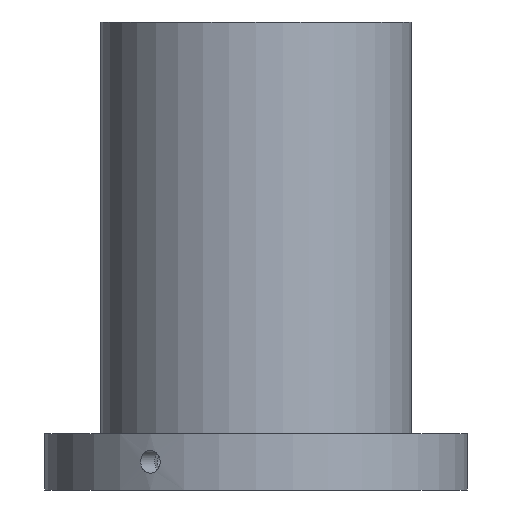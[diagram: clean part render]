
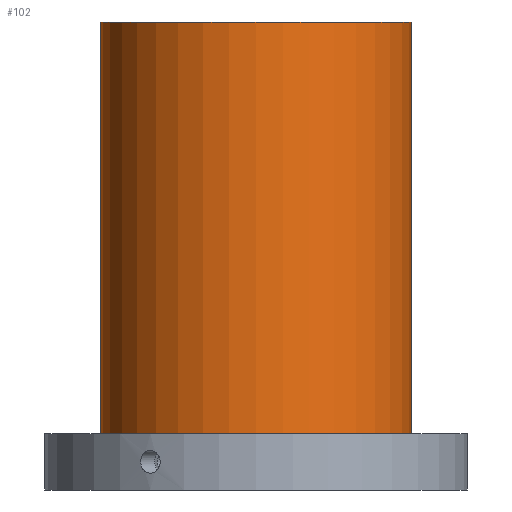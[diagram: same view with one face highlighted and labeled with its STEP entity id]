
A CAD part, front view. The second image highlights one B-rep face of the part: STEP entity #102.
In plain terms, the highlighted cylindrical face has radius 55 mm (diameter 110 mm), a full revolution.
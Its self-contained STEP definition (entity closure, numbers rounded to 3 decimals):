
#102=ADVANCED_FACE('',(#136,#137),#119,.T.);
#119=CYLINDRICAL_SURFACE('',#371,55.);
#136=FACE_BOUND('',#188,.T.);
#137=FACE_BOUND('',#189,.T.);
#188=EDGE_LOOP('',(#240));
#189=EDGE_LOOP('',(#241));
#240=ORIENTED_EDGE('',*,*,#318,.F.);
#241=ORIENTED_EDGE('',*,*,#319,.T.);
#292=VERTEX_POINT('',#557);
#293=VERTEX_POINT('',#559);
#318=EDGE_CURVE('',#292,#292,#343,.T.);
#319=EDGE_CURVE('',#293,#293,#344,.T.);
#343=CIRCLE('',#369,55.);
#344=CIRCLE('',#370,55.);
#369=AXIS2_PLACEMENT_3D('',#556,#415,#416);
#370=AXIS2_PLACEMENT_3D('',#558,#417,#418);
#371=AXIS2_PLACEMENT_3D('',#560,#419,#420);
#415=DIRECTION('',(0.,0.,-1.));
#416=DIRECTION('',(1.,0.,0.));
#417=DIRECTION('',(0.,0.,-1.));
#418=DIRECTION('',(1.,0.,0.));
#419=DIRECTION('',(0.,0.,-1.));
#420=DIRECTION('',(-1.,0.,0.));
#556=CARTESIAN_POINT('',(0.,0.,20.));
#557=CARTESIAN_POINT('',(55.,0.,20.));
#558=CARTESIAN_POINT('',(0.,0.,166.));
#559=CARTESIAN_POINT('',(55.,0.,166.));
#560=CARTESIAN_POINT('',(0.,0.,166.));
